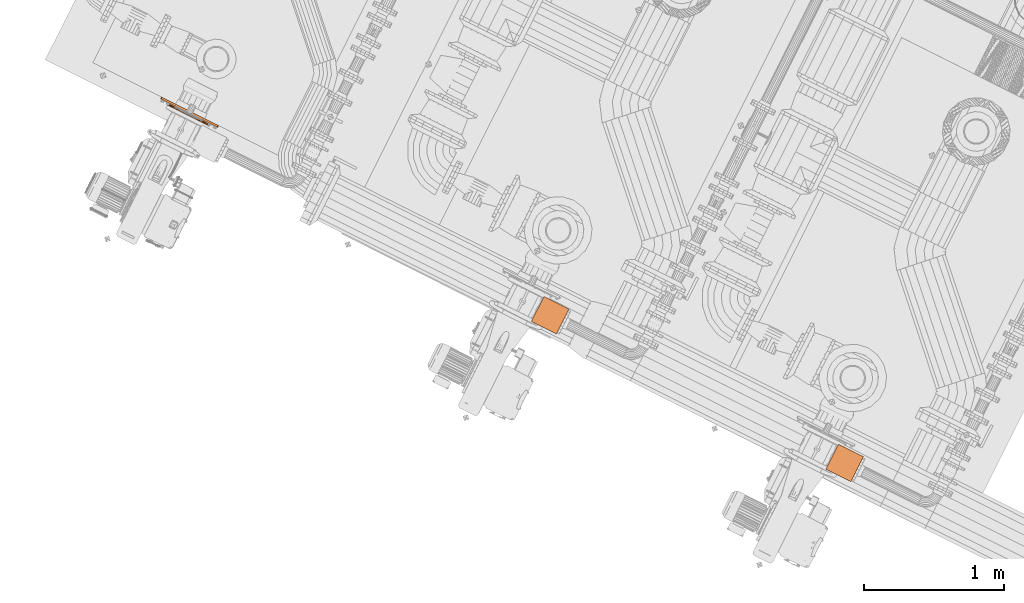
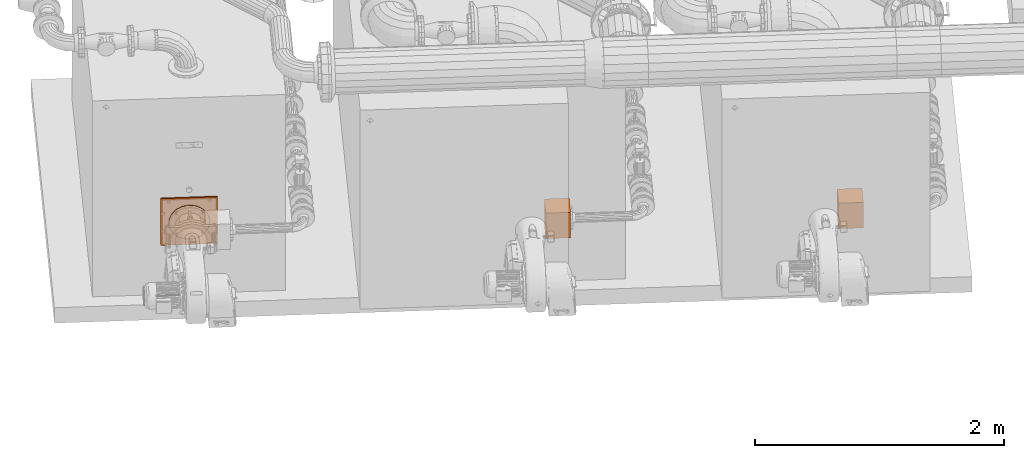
# One storey, part 189 of 206: 4 proxies.
"""IFC2X3 building model written with IfcOpenShell, lengths in metres."""

from ifc_helpers import new_model, si_unit, derived_unit, direction, frame, origin, place, context, subcontext, project, spatial, faceted_brep, source, transform, mapped, material, type_object, type_shapes, element, save


model = new_model("IFC2X3")

# Units and contexts
model_context = context("Model", 3, precision=5.2338327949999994e-05, world=origin(), true_north=direction((0.0, 1.0)))
body_context = subcontext(model_context, "Body", "Model", "MODEL_VIEW")
ifc_project = project(units=[si_unit("LENGTHUNIT", "METRE"), si_unit("AREAUNIT", "SQUARE_METRE"), si_unit("VOLUMEUNIT", "CUBIC_METRE"), si_unit("MASSUNIT", "GRAM", prefix="KILO"), si_unit("PLANEANGLEUNIT", "RADIAN"), derived_unit("THERMALTRANSMITTANCEUNIT", [(si_unit("MASSUNIT", "GRAM", prefix="KILO"), 1), (si_unit("THERMODYNAMICTEMPERATUREUNIT", "KELVIN"), -1), (si_unit("TIMEUNIT", "SECOND"), -3)])], contexts=[model_context])

# Site, building, storey
site_placement = place(None, frame((0.0, 0.0, 0.0), z_axis=(0.0, 0.0, 1.0), x_axis=(0.8939966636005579, -0.4480736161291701, 0.0)))
site = spatial("IfcSite", under=ifc_project, at=site_placement, Name="Default", CompositionType="ELEMENT")
building_placement = place(site_placement, origin())
building = spatial("IfcBuilding", under=site, at=building_placement, CompositionType="ELEMENT")
storey_placement = place(building_placement, origin())
storey = spatial("IfcBuildingStorey", under=building, at=storey_placement, Name="Erdgeschoss", CompositionType="ELEMENT", Elevation=0.0)

# Proxies
ifc_material_1 = material(Name="IfcSurfaceStyle #352577")
building_element_proxy_type_1 = type_object("IfcBuildingElementProxyType", Name="Quader 604201:Quader 604201", PredefinedType="NOTDEFINED", material=ifc_material_1)
shared_shape_1 = source(origin(), body_context, "Body", "Brep", [
    faceted_brep([(24.495145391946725, 4.92795839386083, 0.7449999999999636), (24.295145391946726, 4.92795839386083, 0.7449999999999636), (24.295145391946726, 4.92795839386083, 0.9949999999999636), (24.495145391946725, 4.92795839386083, 0.9949999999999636), (24.295145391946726, 4.72795839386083, 0.9949999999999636), (24.495145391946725, 4.72795839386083, 0.9949999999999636), (24.295145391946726, 4.72795839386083, 0.7449999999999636), (24.495145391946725, 4.72795839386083, 0.7449999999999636)], [[[0, 1, 2, 3]], [[3, 2, 4, 5]], [[5, 4, 6, 7]], [[7, 6, 1, 0]], [[0, 3, 5, 7]], [[6, 4, 2, 1]]]),
])
type_shapes(building_element_proxy_type_1, [shared_shape_1])
proxy_1_placement = place(storey_placement, origin())
element("IfcBuildingElementProxy", 1, at=proxy_1_placement, inside=storey, type_object=building_element_proxy_type_1, material=ifc_material_1, Name="Quader", ObjectType="Quader", context=body_context, shape_type="MappedRepresentation", body=[
    mapped(shared_shape_1, transform((0.0, 0.0, 0.0), scale=1.0)),
])
building_element_proxy_type_2 = type_object("IfcBuildingElementProxyType", Name="Quader 604929:Quader 604929", PredefinedType="NOTDEFINED", material=ifc_material_1)
shared_shape_2 = source(origin(), body_context, "Body", "Brep", [
    faceted_brep([(26.850146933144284, 4.92795839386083, 0.7449999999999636), (26.65014693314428, 4.92795839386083, 0.7449999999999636), (26.65014693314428, 4.92795839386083, 0.9949999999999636), (26.850146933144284, 4.92795839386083, 0.9949999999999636), (26.65014693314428, 4.72795839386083, 0.9949999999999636), (26.850146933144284, 4.72795839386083, 0.9949999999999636), (26.65014693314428, 4.72795839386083, 0.7449999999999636), (26.850146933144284, 4.72795839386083, 0.7449999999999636)], [[[0, 1, 2, 3]], [[3, 2, 4, 5]], [[5, 4, 6, 7]], [[7, 6, 1, 0]], [[0, 3, 5, 7]], [[6, 4, 2, 1]]]),
])
type_shapes(building_element_proxy_type_2, [shared_shape_2])
proxy_2_placement = place(storey_placement, origin())
element("IfcBuildingElementProxy", 2, at=proxy_2_placement, inside=storey, type_object=building_element_proxy_type_2, material=ifc_material_1, Name="Quader", ObjectType="Quader", context=body_context, shape_type="MappedRepresentation", body=[
    mapped(shared_shape_2, transform((0.0, 0.0, 0.0), scale=1.0)),
])
ifc_material_2 = material(Name="IfcSurfaceStyle #624289")
building_element_proxy_type_3 = type_object("IfcBuildingElementProxyType", Name="BuildingElementProxy 34:BuildingElementProxy 34", PredefinedType="NOTDEFINED", material=ifc_material_2)
shared_shape_3 = source(origin(), body_context, "Body", "Brep", [
    faceted_brep([(21.65994787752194, 4.963958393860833, 1.0989999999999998), (21.664947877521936, 4.963958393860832, 1.097660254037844), (21.659947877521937, 4.978208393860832, 1.0990000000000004), (21.66494787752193, 4.978208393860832, 1.097660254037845), (21.668608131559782, 4.963958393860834, 1.0940000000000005), (21.668608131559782, 4.978208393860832, 1.0939999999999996), (21.669947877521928, 4.963958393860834, 1.0890000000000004), (21.669947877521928, 4.978208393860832, 1.0890000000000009), (21.669947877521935, 4.9639583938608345, 0.6510000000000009), (21.669947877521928, 4.978208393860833, 0.6510000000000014), (21.668608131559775, 4.963958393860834, 0.6460000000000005), (21.668608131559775, 4.978208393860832, 0.6460000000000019), (21.66494787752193, 4.963958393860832, 0.6423397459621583), (21.664947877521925, 4.978208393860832, 0.6423397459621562), (21.65994787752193, 4.963958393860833, 0.6410000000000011), (21.65994787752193, 4.978208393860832, 0.6410000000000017), (21.221947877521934, 4.9639583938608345, 0.6409999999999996), (21.221947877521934, 4.978208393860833, 0.6409999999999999), (21.216947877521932, 4.963958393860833, 0.6423397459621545), (21.216947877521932, 4.978208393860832, 0.6423397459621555), (21.213287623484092, 4.963958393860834, 0.6459999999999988), (21.21328762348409, 4.978208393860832, 0.6459999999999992), (21.21194787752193, 4.963958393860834, 0.6509999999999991), (21.211947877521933, 4.978208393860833, 0.6510000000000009), (21.211947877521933, 4.963958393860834, 1.089000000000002), (21.211947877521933, 4.978208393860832, 1.0890000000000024), (21.213287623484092, 4.963958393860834, 1.0940000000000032), (21.21328762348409, 4.978208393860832, 1.0940000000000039), (21.216947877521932, 4.963958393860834, 1.0976602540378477), (21.216947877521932, 4.978208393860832, 1.0976602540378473), (21.221947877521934, 4.963958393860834, 1.0990000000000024), (21.22194787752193, 4.978208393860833, 1.099000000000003)], [[[0, 1, 2]], [[2, 1, 3]], [[1, 4, 3]], [[3, 4, 5]], [[4, 6, 5]], [[5, 6, 7]], [[8, 9, 6]], [[6, 9, 7]], [[8, 10, 9]], [[9, 10, 11]], [[10, 12, 11]], [[11, 12, 13]], [[12, 14, 13]], [[13, 14, 15]], [[16, 17, 14]], [[14, 17, 15]], [[16, 18, 17]], [[17, 18, 19]], [[18, 20, 19]], [[19, 20, 21]], [[20, 22, 21]], [[21, 22, 23]], [[24, 25, 22]], [[22, 25, 23]], [[24, 26, 25]], [[25, 26, 27]], [[26, 28, 27]], [[27, 28, 29]], [[28, 30, 29]], [[29, 30, 31]], [[0, 2, 30]], [[30, 2, 31]], [[29, 31, 25]], [[25, 31, 2]], [[25, 2, 7]], [[7, 2, 3]], [[7, 3, 5]], [[25, 7, 23]], [[23, 7, 9]], [[23, 9, 17]], [[17, 9, 15]], [[9, 11, 15]], [[15, 11, 13]], [[19, 21, 17]], [[17, 21, 23]], [[25, 27, 29]], [[4, 1, 6]], [[6, 1, 0]], [[6, 0, 30]], [[6, 30, 24]], [[24, 30, 28]], [[24, 28, 26]], [[6, 24, 8]], [[8, 24, 22]], [[8, 22, 14]], [[14, 22, 16]], [[22, 20, 16]], [[16, 20, 18]], [[12, 10, 14]], [[14, 10, 8]]]),
])
type_shapes(building_element_proxy_type_3, [shared_shape_3])
proxy_3_placement = place(storey_placement, origin())
element("IfcBuildingElementProxy", 3, at=proxy_3_placement, inside=storey, type_object=building_element_proxy_type_3, material=ifc_material_2, Name="BuildingElementProxy 34", context=body_context, shape_type="MappedRepresentation", body=[
    mapped(shared_shape_3, transform((0.0, 0.0, 0.0), scale=1.0)),
])
ifc_material_3 = material(Name="IfcSurfaceStyle #631137")
building_element_proxy_type_4 = type_object("IfcBuildingElementProxyType", Name="BuildingElementProxy 38:BuildingElementProxy 38", PredefinedType="NOTDEFINED", material=ifc_material_3)
shared_shape_4 = source(origin(), body_context, "Body", "Brep", [
    faceted_brep([(21.32882748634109, 4.946958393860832, 0.9771706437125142), (21.330639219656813, 4.946958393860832, 0.9803086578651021), (21.324275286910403, 4.946958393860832, 0.9866725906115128), (21.333777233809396, 4.946958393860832, 0.9821203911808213), (21.337400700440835, 4.946958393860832, 0.9821203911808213), (21.349278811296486, 4.946958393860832, 1.007192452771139), (21.34053871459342, 4.946958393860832, 0.9803086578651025), (21.34235044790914, 4.946958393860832, 0.9771706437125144), (21.377805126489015, 4.946958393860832, 1.0224400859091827), (21.342350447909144, 4.946958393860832, 0.9735471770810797), (21.40875798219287, 4.946958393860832, 1.0318295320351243), (21.440947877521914, 4.946958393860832, 1.0349999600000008), (21.53954530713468, 4.946958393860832, 0.9735471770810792), (21.34053871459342, 4.946958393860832, 0.97040916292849), (21.5413570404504, 4.946958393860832, 0.9704091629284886), (21.34053871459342, 4.946958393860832, 0.7695908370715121), (21.5413570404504, 4.946958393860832, 0.7695908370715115), (21.34235044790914, 4.946958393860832, 0.766452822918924), (21.539545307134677, 4.946958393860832, 0.7664528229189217), (21.440947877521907, 4.946958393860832, 0.705000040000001), (21.47313777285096, 4.946958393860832, 0.7081704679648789), (21.337400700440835, 4.946958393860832, 0.7714025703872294), (21.337400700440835, 4.946958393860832, 0.9685974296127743), (21.275947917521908, 4.946958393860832, 0.8700000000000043), (21.279118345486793, 4.946958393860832, 0.9021898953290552), (21.288507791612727, 4.946958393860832, 0.933142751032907), (21.333777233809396, 4.946958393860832, 0.9685974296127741), (21.303755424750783, 4.946958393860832, 0.9616690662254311), (21.330639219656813, 4.946958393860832, 0.9704091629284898), (21.32882748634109, 4.946958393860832, 0.9735471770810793), (21.333777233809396, 4.946958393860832, 0.7578796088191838), (21.330639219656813, 4.946958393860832, 0.7596913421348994), (21.324275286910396, 4.946958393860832, 0.7533274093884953), (21.32882748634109, 4.946958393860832, 0.762829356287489), (21.328827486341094, 4.946958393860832, 0.7664528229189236), (21.303755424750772, 4.946958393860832, 0.7783309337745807), (21.330639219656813, 4.946958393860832, 0.7695908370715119), (21.333777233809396, 4.946958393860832, 0.7714025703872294), (21.288507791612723, 4.946958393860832, 0.8068572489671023), (21.27911834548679, 4.946958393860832, 0.8378101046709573), (21.34053871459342, 4.946958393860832, 0.7596913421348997), (21.349278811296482, 4.946958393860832, 0.7328075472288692), (21.34235044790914, 4.946958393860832, 0.7628293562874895), (21.377805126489, 4.946958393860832, 0.717559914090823), (21.408757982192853, 4.946958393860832, 0.7081704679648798), (21.337400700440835, 4.946958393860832, 0.7578796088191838), (21.553068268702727, 4.946958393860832, 0.7628293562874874), (21.551256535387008, 4.946958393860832, 0.7596913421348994), (21.557620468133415, 4.946958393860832, 0.7533274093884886), (21.548118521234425, 4.946958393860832, 0.7578796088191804), (21.544495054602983, 4.946958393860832, 0.7578796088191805), (21.53261694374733, 4.946958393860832, 0.732807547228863), (21.5413570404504, 4.946958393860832, 0.7596913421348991), (21.53954530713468, 4.946958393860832, 0.7628293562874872), (21.504090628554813, 4.946958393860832, 0.7175599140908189), (21.54449505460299, 4.946958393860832, 0.9685974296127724), (21.544495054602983, 4.946958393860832, 0.7714025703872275), (21.605947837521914, 4.946958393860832, 0.8699999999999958), (21.60277740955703, 4.946958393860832, 0.837810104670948), (21.593387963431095, 4.946958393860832, 0.8068572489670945), (21.548118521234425, 4.946958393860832, 0.7714025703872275), (21.578140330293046, 4.946958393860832, 0.7783309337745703), (21.551256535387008, 4.946958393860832, 0.7695908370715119), (21.553068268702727, 4.946958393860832, 0.7664528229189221), (21.548118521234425, 4.946958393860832, 0.9821203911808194), (21.551256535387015, 4.946958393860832, 0.9803086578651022), (21.55762046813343, 4.946958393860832, 0.9866725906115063), (21.553068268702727, 4.946958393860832, 0.9771706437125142), (21.55306826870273, 4.946958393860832, 0.9735471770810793), (21.578140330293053, 4.946958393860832, 0.961669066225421), (21.551256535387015, 4.946958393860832, 0.9704091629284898), (21.548118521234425, 4.946958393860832, 0.9685974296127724), (21.593387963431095, 4.946958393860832, 0.9331427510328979), (21.60277740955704, 4.946958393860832, 0.9021898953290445), (21.5413570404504, 4.946958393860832, 0.9803086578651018), (21.532616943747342, 4.946958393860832, 1.0071924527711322), (21.53954530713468, 4.946958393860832, 0.9771706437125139), (21.50409062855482, 4.946958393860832, 1.0224400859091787), (21.473137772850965, 4.946958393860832, 1.0318295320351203), (21.544495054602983, 4.946958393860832, 0.9821203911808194), (21.333777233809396, 4.955958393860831, 0.9821203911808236), (21.330639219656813, 4.955958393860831, 0.9803086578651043), (21.32882748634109, 4.955958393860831, 0.9771706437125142), (21.32882748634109, 4.955958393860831, 0.9735471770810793), (21.330639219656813, 4.955958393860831, 0.9704091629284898), (21.333777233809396, 4.955958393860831, 0.9685974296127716), (21.337400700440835, 4.955958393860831, 0.9685974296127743), (21.34053871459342, 4.955958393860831, 0.9704091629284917), (21.342350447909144, 4.955958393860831, 0.9735471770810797), (21.342350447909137, 4.955958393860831, 0.9771706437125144), (21.340538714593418, 4.955958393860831, 0.9803086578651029), (21.337400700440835, 4.955958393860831, 0.9821203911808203), (21.32882748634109, 4.955958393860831, 0.762829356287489), (21.330639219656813, 4.955958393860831, 0.7596913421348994), (21.333777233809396, 4.955958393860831, 0.7578796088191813), (21.337400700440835, 4.955958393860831, 0.7578796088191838), (21.34053871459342, 4.955958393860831, 0.7596913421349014), (21.34235044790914, 4.955958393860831, 0.7628293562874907), (21.34235044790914, 4.955958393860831, 0.766452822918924), (21.340538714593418, 4.955958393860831, 0.7695908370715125), (21.337400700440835, 4.955958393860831, 0.7714025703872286), (21.333777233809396, 4.955958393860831, 0.7714025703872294), (21.330639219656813, 4.955958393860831, 0.7695908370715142), (21.328827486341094, 4.955958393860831, 0.7664528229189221), (21.548118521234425, 4.955958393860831, 0.7578796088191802), (21.551256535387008, 4.955958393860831, 0.7596913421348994), (21.553068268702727, 4.955958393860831, 0.7628293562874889), (21.553068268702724, 4.955958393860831, 0.7664528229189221), (21.551256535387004, 4.955958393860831, 0.7695908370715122), (21.548118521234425, 4.955958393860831, 0.7714025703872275), (21.544495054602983, 4.955958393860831, 0.7714025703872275), (21.5413570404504, 4.955958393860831, 0.7695908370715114), (21.539545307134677, 4.955958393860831, 0.7664528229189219), (21.539545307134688, 4.955958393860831, 0.7628293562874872), (21.541357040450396, 4.955958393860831, 0.7596913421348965), (21.544495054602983, 4.955958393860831, 0.7578796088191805), (21.553068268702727, 4.955958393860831, 0.9771706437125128), (21.551256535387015, 4.955958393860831, 0.9803086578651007), (21.548118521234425, 4.955958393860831, 0.9821203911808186), (21.544495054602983, 4.955958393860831, 0.9821203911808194), (21.5413570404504, 4.955958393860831, 0.9803086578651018), (21.53954530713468, 4.955958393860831, 0.9771706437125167), (21.53954530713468, 4.955958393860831, 0.9735471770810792), (21.541357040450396, 4.955958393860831, 0.9704091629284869), (21.54449505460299, 4.955958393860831, 0.9685974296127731), (21.548118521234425, 4.955958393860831, 0.9685974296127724), (21.551256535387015, 4.955958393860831, 0.9704091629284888), (21.55306826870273, 4.955958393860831, 0.9735471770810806), (21.473137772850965, 4.947958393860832, 1.0318295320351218), (21.440947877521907, 4.947958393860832, 1.0349999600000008), (21.44094787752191, 4.947958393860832, 1.0339999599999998), (21.40875798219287, 4.947958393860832, 1.031829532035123), (21.40895307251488, 4.947958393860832, 1.0308487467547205), (21.377805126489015, 4.947958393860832, 1.0224400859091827), (21.37818780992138, 4.947958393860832, 1.0215162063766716), (21.349278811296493, 4.947958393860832, 1.00719245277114), (21.34983438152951, 4.947958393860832, 1.0063609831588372), (21.324275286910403, 4.94795839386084, 0.9866725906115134), (21.324982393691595, 4.947958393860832, 0.9859654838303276), (21.303755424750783, 4.947958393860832, 0.9616690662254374), (21.304586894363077, 4.947958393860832, 0.9611134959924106), (21.28850779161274, 4.947958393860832, 0.9331427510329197), (21.289431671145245, 4.947958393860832, 0.9327600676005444), (21.279118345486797, 4.947958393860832, 0.9021898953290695), (21.28009913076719, 4.947958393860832, 0.901994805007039), (21.275947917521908, 4.947958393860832, 0.8700000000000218), (21.276947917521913, 4.947958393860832, 0.870000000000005), (21.280099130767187, 4.947958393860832, 0.838005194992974), (21.279118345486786, 4.947958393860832, 0.8378101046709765), (21.289431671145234, 4.947958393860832, 0.8072399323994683), (21.288507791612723, 4.947958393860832, 0.8068572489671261), (21.304586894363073, 4.947958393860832, 0.7788865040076), (21.30375542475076, 4.947958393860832, 0.7783309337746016), (21.324982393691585, 4.947958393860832, 0.7540345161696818), (21.32427528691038, 4.947958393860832, 0.7533274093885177), (21.349834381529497, 4.947958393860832, 0.7336390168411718), (21.349278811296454, 4.947958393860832, 0.7328075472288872), (21.37818780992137, 4.947958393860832, 0.718483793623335), (21.377805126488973, 4.947958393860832, 0.7175599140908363), (21.408953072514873, 4.947958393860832, 0.7091512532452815), (21.408757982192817, 4.947958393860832, 0.7081704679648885), (21.440947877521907, 4.947958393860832, 0.7060000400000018), (21.440947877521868, 4.947958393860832, 0.7050000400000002), (21.473137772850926, 4.947958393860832, 0.7081704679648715), (21.472942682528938, 4.947958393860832, 0.7091512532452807), (21.504090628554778, 4.947958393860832, 0.7175599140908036), (21.503707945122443, 4.947958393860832, 0.7184837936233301), (21.532616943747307, 4.947958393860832, 0.7328075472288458), (21.532061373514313, 4.947958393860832, 0.7336390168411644), (21.557620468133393, 4.947958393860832, 0.7533274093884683), (21.556913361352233, 4.947958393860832, 0.7540345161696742), (21.57814033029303, 4.947958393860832, 0.7783309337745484), (21.57730886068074, 4.947958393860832, 0.7788865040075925), (21.593387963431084, 4.947958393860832, 0.806857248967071), (21.59246408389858, 4.947958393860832, 0.8072399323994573), (21.60277740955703, 4.947958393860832, 0.8378101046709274), (21.60179662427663, 4.947958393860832, 0.8380051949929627), (21.604947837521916, 4.947958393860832, 0.8699999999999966), (21.605947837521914, 4.947958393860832, 0.8699999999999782), (21.60179662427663, 4.947958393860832, 0.9019948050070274), (21.60277740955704, 4.947958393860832, 0.90218989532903), (21.592464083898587, 4.947958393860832, 0.9327600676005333), (21.5933879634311, 4.947958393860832, 0.9331427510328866), (21.577308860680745, 4.947958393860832, 0.9611134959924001), (21.578140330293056, 4.947958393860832, 0.961669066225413), (21.556913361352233, 4.947958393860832, 0.9859654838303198), (21.557620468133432, 4.947958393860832, 0.9866725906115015), (21.53206137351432, 4.947958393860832, 1.0063609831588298), (21.532616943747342, 4.947958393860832, 1.0071924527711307), (21.503707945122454, 4.947958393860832, 1.0215162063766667), (21.50409062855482, 4.947958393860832, 1.0224400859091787), (21.472942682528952, 4.947958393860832, 1.0308487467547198), (21.33960280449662, 4.955958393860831, 1.0002081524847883), (21.38737247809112, 4.955958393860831, 1.0260598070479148), (21.440947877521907, 4.955958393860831, 1.0349999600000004), (21.302815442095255, 4.955958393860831, 0.9602464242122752), (21.280996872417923, 4.955958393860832, 0.9105050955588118), (21.276511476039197, 4.955958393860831, 0.8563744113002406), (21.289845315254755, 4.955958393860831, 0.8037202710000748), (21.3195534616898, 4.955958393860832, 0.7582485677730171), (21.362416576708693, 4.955958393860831, 0.7248868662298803), (21.41378977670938, 4.955958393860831, 0.7072504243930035), (21.440947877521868, 4.955958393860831, 0.7050000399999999), (21.46810597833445, 4.955958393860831, 0.707250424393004), (21.56234229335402, 4.955958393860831, 0.7582485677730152), (21.519479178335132, 4.955958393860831, 0.7248868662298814), (21.592050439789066, 4.95595839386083, 0.8037202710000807), (21.60538427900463, 4.955958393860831, 0.8563744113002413), (21.600898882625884, 4.955958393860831, 0.910505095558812), (21.579080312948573, 4.955958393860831, 0.9602464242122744), (21.5422929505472, 4.955958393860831, 1.000208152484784), (21.4945232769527, 4.955958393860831, 1.0260598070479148)], [[[0, 1, 2]], [[2, 1, 3]], [[2, 3, 4]], [[2, 4, 5]], [[5, 4, 6]], [[5, 6, 7]], [[5, 7, 8]], [[8, 7, 9]], [[8, 9, 10]], [[10, 9, 11]], [[11, 9, 12]], [[12, 9, 13]], [[12, 13, 14]], [[14, 13, 15]], [[14, 15, 16]], [[16, 15, 17]], [[16, 17, 18]], [[18, 17, 19]], [[18, 19, 20]], [[15, 13, 21]], [[21, 13, 22]], [[21, 22, 23]], [[23, 22, 24]], [[24, 22, 25]], [[25, 22, 26]], [[25, 26, 27]], [[27, 26, 28]], [[27, 28, 29]], [[27, 29, 2]], [[2, 29, 0]], [[30, 31, 32]], [[32, 31, 33]], [[32, 33, 34]], [[32, 34, 35]], [[35, 34, 36]], [[35, 36, 37]], [[35, 37, 38]], [[38, 37, 21]], [[38, 21, 39]], [[39, 21, 23]], [[40, 41, 42]], [[42, 41, 43]], [[42, 43, 17]], [[17, 43, 44]], [[17, 44, 19]], [[40, 45, 41]], [[41, 45, 32]], [[45, 30, 32]], [[46, 47, 48]], [[48, 47, 49]], [[48, 49, 50]], [[48, 50, 51]], [[51, 50, 52]], [[51, 52, 53]], [[51, 53, 54]], [[54, 53, 18]], [[54, 18, 20]], [[14, 16, 55]], [[55, 16, 56]], [[55, 56, 57]], [[57, 56, 58]], [[58, 56, 59]], [[59, 56, 60]], [[59, 60, 61]], [[61, 60, 62]], [[61, 62, 63]], [[61, 63, 48]], [[48, 63, 46]], [[64, 65, 66]], [[66, 65, 67]], [[66, 67, 68]], [[66, 68, 69]], [[69, 68, 70]], [[69, 70, 71]], [[69, 71, 72]], [[72, 71, 55]], [[72, 55, 73]], [[73, 55, 57]], [[74, 75, 76]], [[76, 75, 77]], [[76, 77, 12]], [[12, 77, 78]], [[12, 78, 11]], [[74, 79, 75]], [[75, 79, 66]], [[79, 64, 66]], [[80, 1, 81]], [[81, 1, 0]], [[81, 0, 82]], [[82, 0, 29]], [[82, 29, 83]], [[83, 29, 28]], [[83, 28, 84]], [[84, 28, 26]], [[84, 26, 85]], [[85, 26, 22]], [[85, 22, 86]], [[86, 22, 13]], [[86, 13, 87]], [[87, 13, 9]], [[87, 9, 88]], [[88, 9, 7]], [[88, 7, 89]], [[89, 7, 6]], [[89, 6, 90]], [[90, 6, 4]], [[90, 4, 91]], [[91, 4, 3]], [[91, 3, 80]], [[80, 3, 1]], [[92, 31, 93]], [[93, 31, 30]], [[93, 30, 94]], [[94, 30, 45]], [[94, 45, 95]], [[95, 45, 40]], [[95, 40, 96]], [[96, 40, 42]], [[96, 42, 97]], [[97, 42, 17]], [[97, 17, 98]], [[98, 17, 15]], [[98, 15, 99]], [[99, 15, 21]], [[99, 21, 100]], [[100, 21, 37]], [[100, 37, 101]], [[101, 37, 36]], [[101, 36, 102]], [[102, 36, 34]], [[102, 34, 103]], [[103, 34, 33]], [[103, 33, 92]], [[92, 33, 31]], [[104, 47, 105]], [[105, 47, 46]], [[105, 46, 106]], [[106, 46, 63]], [[106, 63, 107]], [[107, 63, 62]], [[107, 62, 108]], [[108, 62, 60]], [[108, 60, 109]], [[109, 60, 56]], [[109, 56, 110]], [[110, 56, 16]], [[110, 16, 111]], [[111, 16, 18]], [[111, 18, 112]], [[112, 18, 53]], [[112, 53, 113]], [[113, 53, 52]], [[113, 52, 114]], [[114, 52, 50]], [[114, 50, 115]], [[115, 50, 49]], [[115, 49, 104]], [[104, 49, 47]], [[116, 65, 117]], [[117, 65, 64]], [[117, 64, 118]], [[118, 64, 79]], [[118, 79, 119]], [[119, 79, 74]], [[119, 74, 120]], [[120, 74, 76]], [[120, 76, 121]], [[121, 76, 12]], [[121, 12, 122]], [[122, 12, 14]], [[122, 14, 123]], [[123, 14, 55]], [[123, 55, 124]], [[124, 55, 71]], [[124, 71, 125]], [[125, 71, 70]], [[125, 70, 126]], [[126, 70, 68]], [[126, 68, 127]], [[127, 68, 67]], [[127, 67, 116]], [[116, 67, 65]], [[128, 129, 130]], [[130, 129, 131]], [[130, 131, 132]], [[132, 131, 133]], [[132, 133, 134]], [[134, 133, 135]], [[134, 135, 136]], [[136, 135, 137]], [[136, 137, 138]], [[138, 137, 139]], [[138, 139, 140]], [[140, 139, 141]], [[140, 141, 142]], [[142, 141, 143]], [[142, 143, 144]], [[144, 143, 145]], [[144, 145, 146]], [[146, 145, 147]], [[145, 148, 147]], [[147, 148, 149]], [[148, 150, 149]], [[149, 150, 151]], [[150, 152, 151]], [[151, 152, 153]], [[152, 154, 153]], [[153, 154, 155]], [[154, 156, 155]], [[155, 156, 157]], [[156, 158, 157]], [[157, 158, 159]], [[158, 160, 159]], [[159, 160, 161]], [[160, 162, 161]], [[161, 162, 163]], [[161, 163, 164]], [[164, 163, 165]], [[164, 165, 166]], [[166, 165, 167]], [[166, 167, 168]], [[168, 167, 169]], [[168, 169, 170]], [[170, 169, 171]], [[170, 171, 172]], [[172, 171, 173]], [[172, 173, 174]], [[174, 173, 175]], [[174, 175, 176]], [[176, 175, 177]], [[175, 178, 177]], [[177, 178, 179]], [[178, 180, 179]], [[179, 180, 181]], [[180, 182, 181]], [[181, 182, 183]], [[182, 184, 183]], [[183, 184, 185]], [[184, 186, 185]], [[185, 186, 187]], [[186, 188, 187]], [[187, 188, 189]], [[188, 190, 189]], [[189, 190, 191]], [[190, 128, 191]], [[191, 128, 130]], [[137, 135, 192]], [[192, 135, 133]], [[192, 133, 193]], [[193, 133, 131]], [[193, 131, 194]], [[194, 131, 129]], [[194, 129, 128]], [[192, 195, 137]], [[137, 195, 139]], [[139, 195, 141]], [[141, 195, 196]], [[141, 196, 143]], [[143, 196, 145]], [[196, 197, 145]], [[145, 197, 148]], [[197, 198, 148]], [[148, 198, 150]], [[150, 198, 152]], [[152, 198, 199]], [[152, 199, 154]], [[154, 199, 156]], [[199, 200, 156]], [[156, 200, 158]], [[200, 201, 158]], [[158, 201, 160]], [[160, 201, 162]], [[162, 201, 202]], [[162, 202, 203]], [[171, 169, 204]], [[204, 169, 167]], [[204, 167, 205]], [[205, 167, 165]], [[205, 165, 203]], [[203, 165, 163]], [[203, 163, 162]], [[204, 206, 171]], [[171, 206, 173]], [[173, 206, 175]], [[175, 206, 207]], [[175, 207, 178]], [[178, 207, 208]], [[178, 208, 180]], [[180, 208, 182]], [[208, 209, 182]], [[182, 209, 184]], [[184, 209, 186]], [[186, 209, 210]], [[186, 210, 188]], [[188, 210, 211]], [[188, 211, 190]], [[190, 211, 128]], [[211, 194, 128]], [[82, 195, 81]], [[81, 195, 192]], [[81, 192, 80]], [[80, 192, 91]], [[82, 83, 195]], [[195, 83, 84]], [[195, 84, 85]], [[195, 85, 196]], [[196, 85, 86]], [[196, 86, 197]], [[197, 86, 100]], [[197, 100, 198]], [[198, 100, 101]], [[198, 101, 102]], [[100, 86, 99]], [[99, 86, 87]], [[99, 87, 123]], [[123, 87, 122]], [[87, 88, 122]], [[122, 88, 194]], [[122, 194, 211]], [[194, 88, 193]], [[193, 88, 89]], [[193, 89, 192]], [[192, 89, 90]], [[192, 90, 91]], [[92, 93, 199]], [[199, 93, 94]], [[199, 94, 200]], [[200, 94, 95]], [[200, 95, 96]], [[96, 97, 200]], [[200, 97, 98]], [[200, 98, 201]], [[201, 98, 202]], [[99, 111, 98]], [[98, 111, 112]], [[98, 112, 202]], [[202, 112, 203]], [[198, 102, 199]], [[199, 102, 103]], [[199, 103, 92]], [[104, 105, 204]], [[204, 105, 106]], [[204, 106, 107]], [[107, 108, 204]], [[204, 108, 206]], [[108, 109, 206]], [[206, 109, 110]], [[206, 110, 207]], [[207, 110, 124]], [[207, 124, 208]], [[208, 124, 125]], [[208, 125, 209]], [[209, 125, 126]], [[209, 126, 127]], [[110, 111, 124]], [[124, 111, 123]], [[203, 112, 205]], [[205, 112, 113]], [[205, 113, 114]], [[114, 115, 205]], [[205, 115, 104]], [[205, 104, 204]], [[118, 210, 117]], [[117, 210, 209]], [[117, 209, 116]], [[116, 209, 127]], [[118, 119, 210]], [[210, 119, 120]], [[210, 120, 121]], [[210, 121, 211]], [[211, 121, 122]], [[99, 123, 111]], [[132, 10, 130]], [[130, 10, 11]], [[130, 11, 191]], [[191, 11, 78]], [[191, 78, 189]], [[189, 78, 77]], [[189, 77, 187]], [[187, 77, 75]], [[187, 75, 185]], [[185, 75, 66]], [[185, 66, 183]], [[183, 66, 69]], [[183, 69, 181]], [[181, 69, 72]], [[181, 72, 179]], [[179, 72, 73]], [[179, 73, 177]], [[177, 73, 57]], [[177, 57, 176]], [[176, 57, 58]], [[176, 58, 174]], [[174, 58, 59]], [[174, 59, 172]], [[172, 59, 61]], [[172, 61, 170]], [[170, 61, 48]], [[170, 48, 168]], [[168, 48, 51]], [[168, 51, 166]], [[166, 51, 54]], [[166, 54, 164]], [[164, 54, 20]], [[164, 20, 161]], [[161, 20, 19]], [[161, 19, 159]], [[159, 19, 44]], [[159, 44, 157]], [[157, 44, 43]], [[157, 43, 155]], [[155, 43, 41]], [[155, 41, 153]], [[153, 41, 32]], [[153, 32, 151]], [[151, 32, 35]], [[151, 35, 149]], [[149, 35, 38]], [[149, 38, 147]], [[147, 38, 39]], [[147, 39, 146]], [[146, 39, 23]], [[146, 23, 144]], [[144, 23, 24]], [[144, 24, 142]], [[142, 24, 25]], [[142, 25, 140]], [[140, 25, 27]], [[140, 27, 138]], [[138, 27, 2]], [[138, 2, 136]], [[136, 2, 5]], [[136, 5, 134]], [[134, 5, 8]], [[134, 8, 132]], [[132, 8, 10]]]),
])
type_shapes(building_element_proxy_type_4, [shared_shape_4])
proxy_4_placement = place(storey_placement, origin())
element("IfcBuildingElementProxy", 4, at=proxy_4_placement, inside=storey, type_object=building_element_proxy_type_4, material=ifc_material_3, Name="BuildingElementProxy 38", context=body_context, shape_type="MappedRepresentation", body=[
    mapped(shared_shape_4, transform((0.0, 0.0, 0.0), scale=1.0)),
])

save(model, "model.ifc")
